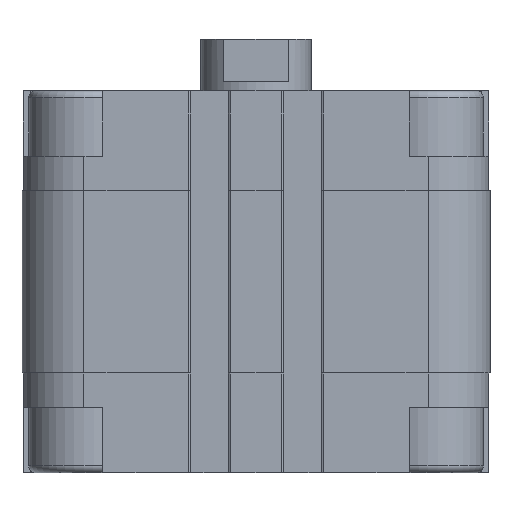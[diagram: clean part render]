
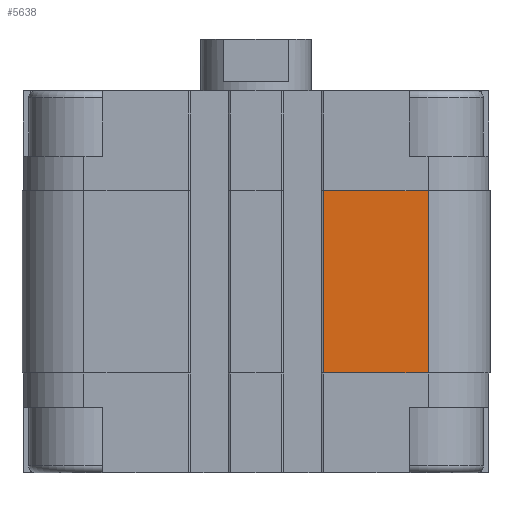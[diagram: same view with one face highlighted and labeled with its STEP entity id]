
A CAD part, front view. The second image highlights one B-rep face of the part: STEP entity #5638.
In plain terms, the highlighted planar face has unit normal (0, -1, 0).
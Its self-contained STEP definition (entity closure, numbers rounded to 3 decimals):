
#582 = LINE ( 'NONE', #18008, #14218 ) ;
#611 = LINE ( 'NONE', #12648, #7381 ) ;
#947 = VERTEX_POINT ( 'NONE', #2340 ) ;
#2340 = CARTESIAN_POINT ( 'NONE',  ( 25., -34., -14.5 ) ) ;
#2621 = DIRECTION ( 'NONE',  ( 0., 0., 1. ) ) ;
#2990 = ORIENTED_EDGE ( 'NONE', *, *, #3328, .T. ) ;
#3132 = CARTESIAN_POINT ( 'NONE',  ( 9.85, -34., -41. ) ) ;
#3328 = EDGE_CURVE ( 'NONE', #21238, #947, #611, .T. ) ;
#3669 = EDGE_CURVE ( 'NONE', #14384, #10574, #582, .T. ) ;
#4808 = EDGE_CURVE ( 'NONE', #14384, #21238, #19241, .T. ) ;
#4827 = ORIENTED_EDGE ( 'NONE', *, *, #3669, .F. ) ;
#5638 = ADVANCED_FACE ( 'NONE', ( #20211 ), #16529, .T. ) ;
#5651 = CARTESIAN_POINT ( 'NONE',  ( 9.85, -34., -41. ) ) ;
#6542 = ORIENTED_EDGE ( 'NONE', *, *, #9868, .F. ) ;
#6984 = CARTESIAN_POINT ( 'NONE',  ( 9.85, -34., -14.5 ) ) ;
#7067 = AXIS2_PLACEMENT_3D ( 'NONE', #3132, #20330, #16853 ) ;
#7381 = VECTOR ( 'NONE', #2621, 1000. ) ;
#8341 = ORIENTED_EDGE ( 'NONE', *, *, #4808, .T. ) ;
#8439 = EDGE_LOOP ( 'NONE', ( #6542, #4827, #8341, #2990 ) ) ;
#9868 = EDGE_CURVE ( 'NONE', #10574, #947, #16729, .T. ) ;
#10574 = VERTEX_POINT ( 'NONE', #6984 ) ;
#12123 = DIRECTION ( 'NONE',  ( 1., 0., 0. ) ) ;
#12648 = CARTESIAN_POINT ( 'NONE',  ( 25., -34., -41. ) ) ;
#14218 = VECTOR ( 'NONE', #14522, 1000. ) ;
#14384 = VERTEX_POINT ( 'NONE', #20813 ) ;
#14522 = DIRECTION ( 'NONE',  ( 0., 0., 1. ) ) ;
#16529 = PLANE ( 'NONE',  #7067 ) ;
#16729 = LINE ( 'NONE', #22109, #18851 ) ;
#16853 = DIRECTION ( 'NONE',  ( -1., 0., 0. ) ) ;
#18008 = CARTESIAN_POINT ( 'NONE',  ( 9.85, -34., -41. ) ) ;
#18851 = VECTOR ( 'NONE', #12123, 1000. ) ;
#19156 = CARTESIAN_POINT ( 'NONE',  ( 25., -34., -41. ) ) ;
#19241 = LINE ( 'NONE', #5651, #19594 ) ;
#19594 = VECTOR ( 'NONE', #20824, 1000. ) ;
#20211 = FACE_OUTER_BOUND ( 'NONE', #8439, .T. ) ;
#20330 = DIRECTION ( 'NONE',  ( 0., -1., 0. ) ) ;
#20813 = CARTESIAN_POINT ( 'NONE',  ( 9.85, -34., -41. ) ) ;
#20824 = DIRECTION ( 'NONE',  ( 1., 0., 0. ) ) ;
#21238 = VERTEX_POINT ( 'NONE', #19156 ) ;
#22109 = CARTESIAN_POINT ( 'NONE',  ( 9.85, -34., -14.5 ) ) ;
